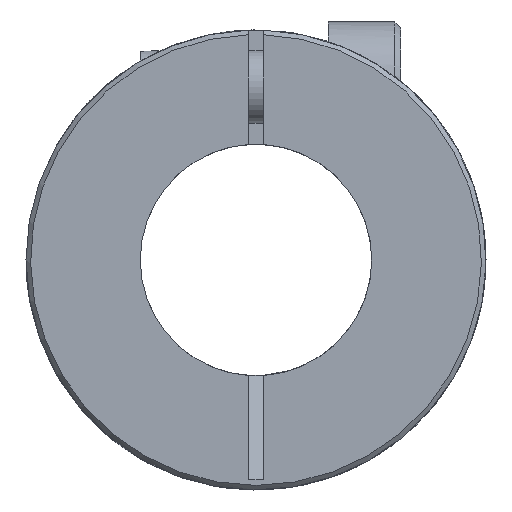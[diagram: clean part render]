
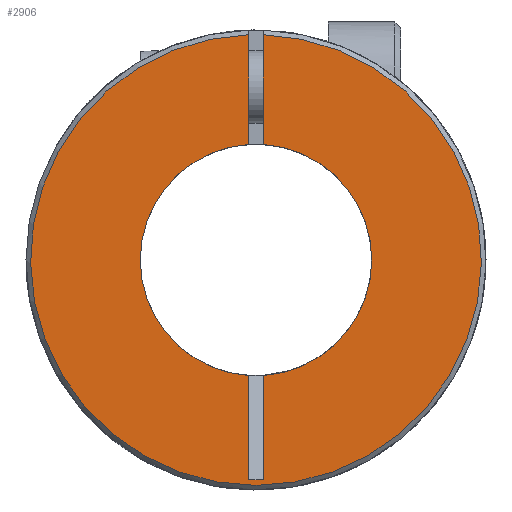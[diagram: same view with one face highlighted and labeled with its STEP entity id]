
A CAD part, front view. The second image highlights one B-rep face of the part: STEP entity #2906.
In plain terms, the highlighted planar face has unit normal (0, -1, 0).
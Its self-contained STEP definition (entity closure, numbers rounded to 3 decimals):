
#1=DIRECTION('',(0.,0.,-1.));
#2=VECTOR('',#1,3.794);
#3=CARTESIAN_POINT('',(-0.25,-12.7,7.786));
#4=LINE('',#3,#2);
#5=CARTESIAN_POINT('',(0.,-12.7,0.));
#6=DIRECTION('',(0.,1.,0.));
#7=DIRECTION('',(-1.,0.,0.));
#8=AXIS2_PLACEMENT_3D('',#5,#6,#7);
#10=CARTESIAN_POINT('',(0.,-12.7,0.));
#11=DIRECTION('',(0.,1.,0.));
#12=DIRECTION('',(-0.063,0.,-0.998));
#13=AXIS2_PLACEMENT_3D('',#10,#11,#12);
#15=DIRECTION('',(0.,0.,-1.));
#16=VECTOR('',#15,3.608);
#17=CARTESIAN_POINT('',(-0.25,-12.7,-3.992));
#18=LINE('',#17,#16);
#19=DIRECTION('',(1.,0.,0.));
#20=VECTOR('',#19,0.5);
#21=CARTESIAN_POINT('',(-0.25,-12.7,-7.6));
#22=LINE('',#21,#20);
#23=DIRECTION('',(0.,0.,-1.));
#24=VECTOR('',#23,3.608);
#25=CARTESIAN_POINT('',(0.25,-12.7,-3.992));
#26=LINE('',#25,#24);
#27=DIRECTION('',(0.,0.,-1.));
#28=VECTOR('',#27,3.794);
#29=CARTESIAN_POINT('',(0.25,-12.7,7.786));
#30=LINE('',#29,#28);
#54=CARTESIAN_POINT('',(0.,-12.7,0.));
#55=DIRECTION('',(0.,1.,0.));
#56=DIRECTION('',(0.063,0.,0.998));
#57=AXIS2_PLACEMENT_3D('',#54,#55,#56);
#2409=CARTESIAN_POINT('',(0.,-12.7,0.));
#2410=DIRECTION('',(0.,-1.,0.));
#2411=DIRECTION('',(-0.032,0.,0.999));
#2412=AXIS2_PLACEMENT_3D('',#2409,#2410,#2411);
#2571=CARTESIAN_POINT('',(-4.,-12.7,0.));
#2572=VERTEX_POINT('',#2571);
#2646=CARTESIAN_POINT('',(-0.25,-12.7,-7.6));
#2648=VERTEX_POINT('',#2646);
#2650=CARTESIAN_POINT('',(0.25,-12.7,-7.6));
#2652=VERTEX_POINT('',#2650);
#2703=CARTESIAN_POINT('',(-0.25,-12.7,7.786));
#2704=CARTESIAN_POINT('',(-0.25,-12.7,3.992));
#2705=VERTEX_POINT('',#2703);
#2706=VERTEX_POINT('',#2704);
#2707=CARTESIAN_POINT('',(-0.25,-12.7,-3.992));
#2708=VERTEX_POINT('',#2707);
#2709=CARTESIAN_POINT('',(0.25,-12.7,7.786));
#2710=CARTESIAN_POINT('',(0.25,-12.7,3.992));
#2711=VERTEX_POINT('',#2709);
#2712=VERTEX_POINT('',#2710);
#2713=CARTESIAN_POINT('',(0.25,-12.7,-3.992));
#2714=VERTEX_POINT('',#2713);
#2881=CARTESIAN_POINT('',(0.,-12.7,0.));
#2882=DIRECTION('',(0.,1.,0.));
#2883=DIRECTION('',(1.,0.,0.));
#2884=AXIS2_PLACEMENT_3D('',#2881,#2882,#2883);
#2885=PLANE('',#2884);
#2887=ORIENTED_EDGE('',*,*,#2886,.T.);
#2889=ORIENTED_EDGE('',*,*,#2888,.F.);
#2891=ORIENTED_EDGE('',*,*,#2890,.F.);
#2893=ORIENTED_EDGE('',*,*,#2892,.T.);
#2895=ORIENTED_EDGE('',*,*,#2894,.T.);
#2897=ORIENTED_EDGE('',*,*,#2896,.F.);
#2899=ORIENTED_EDGE('',*,*,#2898,.F.);
#2901=ORIENTED_EDGE('',*,*,#2900,.F.);
#2903=ORIENTED_EDGE('',*,*,#2902,.F.);
#2904=EDGE_LOOP('',(#2887,#2889,#2891,#2893,#2895,#2897,#2899,#2901,#2903));
#2905=FACE_OUTER_BOUND('',#2904,.F.);
#2906=ADVANCED_FACE('',(#2905),#2885,.F.);
#9=CIRCLE('',#8,4.);
#14=CIRCLE('',#13,4.);
#58=CIRCLE('',#57,4.);
#2413=CIRCLE('',#2412,7.79);
#2886=EDGE_CURVE('',#2705,#2706,#4,.T.);
#2888=EDGE_CURVE('',#2572,#2706,#9,.T.);
#2890=EDGE_CURVE('',#2708,#2572,#14,.T.);
#2892=EDGE_CURVE('',#2708,#2648,#18,.T.);
#2894=EDGE_CURVE('',#2648,#2652,#22,.T.);
#2896=EDGE_CURVE('',#2714,#2652,#26,.T.);
#2898=EDGE_CURVE('',#2712,#2714,#58,.T.);
#2900=EDGE_CURVE('',#2711,#2712,#30,.T.);
#2902=EDGE_CURVE('',#2705,#2711,#2413,.T.);
